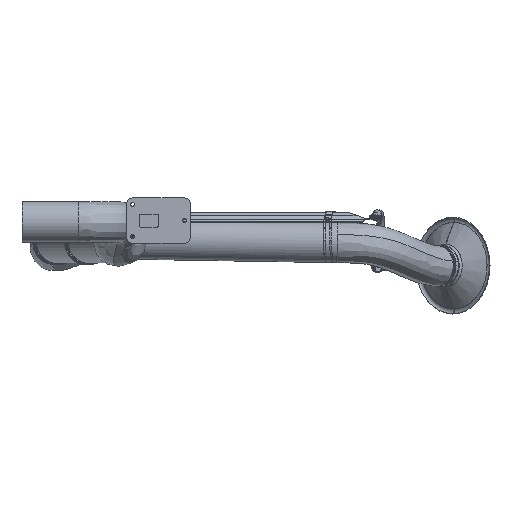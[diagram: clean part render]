
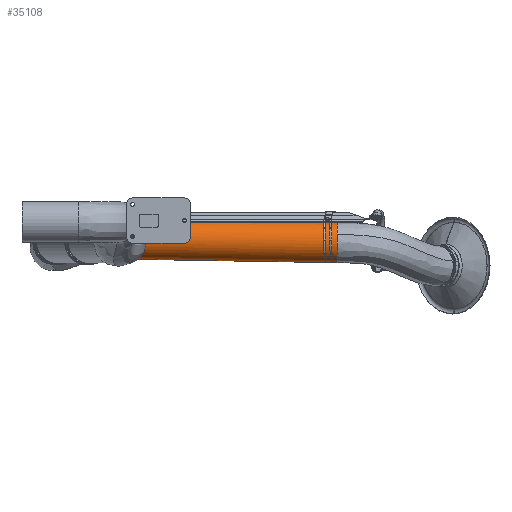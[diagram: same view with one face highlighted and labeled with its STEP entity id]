
A CAD part, left-side view. The second image highlights one B-rep face of the part: STEP entity #35108.
In plain terms, the highlighted free-form (B-spline) face has degree [3, 3] with [7, 6] control points.
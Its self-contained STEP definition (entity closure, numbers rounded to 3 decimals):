
#34164=CARTESIAN_POINT('',(1148.758,-582.743,
-126.491));
#34165=CARTESIAN_POINT('',(1148.758,-502.41,
-125.158));
#34166=CARTESIAN_POINT('',(1148.758,-341.743,
-122.491));
#34167=CARTESIAN_POINT('',(1148.758,-100.743,
-118.491));
#34168=CARTESIAN_POINT('',(1148.758,59.924,
-115.825));
#34169=CARTESIAN_POINT('',(1148.758,140.257,
-114.491));
#34174=CARTESIAN_POINT('',(1148.758,-583.78,-64.));
#34175=DIRECTION('',(0.,-1.,-0.017));
#34176=DIRECTION('',(0.,-0.017,1.));
#34177=AXIS2_PLACEMENT_3D('',#34174,#34175,#34176);
#34182=CARTESIAN_POINT('',(1148.758,-583.78,-64.));
#34183=DIRECTION('',(0.,-1.,-0.017));
#34184=DIRECTION('',(-0.916,-0.007,0.401));
#34185=AXIS2_PLACEMENT_3D('',#34182,#34183,#34184);
#34206=CARTESIAN_POINT('',(1148.758,-584.817,
-1.509));
#34207=CARTESIAN_POINT('',(1148.758,-504.484,
-0.175));
#34208=CARTESIAN_POINT('',(1148.758,-343.817,
2.491));
#34209=CARTESIAN_POINT('',(1148.758,-102.817,
6.491));
#34210=CARTESIAN_POINT('',(1148.758,57.849,9.158));
#34211=CARTESIAN_POINT('',(1148.758,138.183,10.491));
#34486=CARTESIAN_POINT('',(1148.758,139.22,-52.));
#34487=DIRECTION('',(0.,1.,0.017));
#34488=DIRECTION('',(0.,0.017,-1.));
#34489=AXIS2_PLACEMENT_3D('',#34486,#34487,#34488);
#35013=CARTESIAN_POINT('',(1148.758,140.257,
-114.491));
#35014=CARTESIAN_POINT('',(1148.758,138.183,10.491));
#35015=VERTEX_POINT('',#35013);
#35016=VERTEX_POINT('',#35014);
#35039=VERTEX_POINT('',#34164);
#35040=VERTEX_POINT('',#34206);
#35049=CARTESIAN_POINT('',(1091.505,-584.196,
-38.936));
#35050=VERTEX_POINT('',#35049);
#35053=CARTESIAN_POINT('',(1152.683,-597.205,
-126.608));
#35054=CARTESIAN_POINT('',(1152.683,-592.385,
-126.528));
#35055=CARTESIAN_POINT('',(1152.683,-346.565,
-122.448));
#35056=CARTESIAN_POINT('',(1152.683,-95.925,
-118.288));
#35057=CARTESIAN_POINT('',(1152.683,149.895,
-114.208));
#35058=CARTESIAN_POINT('',(1152.683,154.715,
-114.128));
#35059=CARTESIAN_POINT('',(1114.296,-597.165,
-129.023));
#35060=CARTESIAN_POINT('',(1114.296,-592.345,
-128.943));
#35061=CARTESIAN_POINT('',(1114.296,-346.525,
-124.863));
#35062=CARTESIAN_POINT('',(1114.296,-95.885,
-120.703));
#35063=CARTESIAN_POINT('',(1114.296,149.935,
-116.623));
#35064=CARTESIAN_POINT('',(1114.296,154.755,
-116.543));
#35065=CARTESIAN_POINT('',(1086.258,-597.602,
-102.697));
#35066=CARTESIAN_POINT('',(1086.258,-592.782,
-102.617));
#35067=CARTESIAN_POINT('',(1086.258,-346.962,
-98.537));
#35068=CARTESIAN_POINT('',(1086.258,-96.322,
-94.377));
#35069=CARTESIAN_POINT('',(1086.258,149.498,
-90.297));
#35070=CARTESIAN_POINT('',(1086.258,154.318,
-90.217));
#35071=CARTESIAN_POINT('',(1086.258,-598.24,-64.24));
#35072=CARTESIAN_POINT('',(1086.258,-593.42,-64.16));
#35073=CARTESIAN_POINT('',(1086.258,-347.6,-60.08));
#35074=CARTESIAN_POINT('',(1086.258,-96.96,-55.92));
#35075=CARTESIAN_POINT('',(1086.258,148.86,-51.84));
#35076=CARTESIAN_POINT('',(1086.258,153.68,-51.76));
#35077=CARTESIAN_POINT('',(1086.258,-598.878,
-25.783));
#35078=CARTESIAN_POINT('',(1086.258,-594.058,
-25.703));
#35079=CARTESIAN_POINT('',(1086.258,-348.238,
-21.623));
#35080=CARTESIAN_POINT('',(1086.258,-97.598,
-17.463));
#35081=CARTESIAN_POINT('',(1086.258,148.222,
-13.383));
#35082=CARTESIAN_POINT('',(1086.258,153.042,
-13.303));
#35083=CARTESIAN_POINT('',(1114.296,-599.315,
0.543));
#35084=CARTESIAN_POINT('',(1114.296,-594.495,
0.623));
#35085=CARTESIAN_POINT('',(1114.296,-348.675,
4.703));
#35086=CARTESIAN_POINT('',(1114.296,-98.035,
8.863));
#35087=CARTESIAN_POINT('',(1114.296,147.785,12.943));
#35088=CARTESIAN_POINT('',(1114.296,152.605,13.023));
#35089=CARTESIAN_POINT('',(1152.683,-599.275,
-1.872));
#35090=CARTESIAN_POINT('',(1152.683,-594.455,
-1.792));
#35091=CARTESIAN_POINT('',(1152.683,-348.635,
2.288));
#35092=CARTESIAN_POINT('',(1152.683,-97.995,
6.448));
#35093=CARTESIAN_POINT('',(1152.683,147.825,10.528));
#35094=CARTESIAN_POINT('',(1152.683,152.645,10.608));
#35095=(BOUNDED_SURFACE()B_SPLINE_SURFACE(3,3,((#35053,#35054,#35055,#35056,
#35057,#35058),(#35059,#35060,#35061,#35062,#35063,#35064),(#35065,#35066,
#35067,#35068,#35069,#35070),(#35071,#35072,#35073,#35074,#35075,#35076),
(#35077,#35078,#35079,#35080,#35081,#35082),(#35083,#35084,#35085,#35086,#35087,
#35088),(#35089,#35090,#35091,#35092,#35093,#35094)),.UNSPECIFIED.,.F.,.F.,.F.)B_SPLINE_SURFACE_WITH_KNOTS((4,3,4),(4,1,1,4),(0.,1.,2.),(-0.02,0.,1.,
1.02),.UNSPECIFIED.)GEOMETRIC_REPRESENTATION_ITEM()RATIONAL_B_SPLINE_SURFACE((
(1.187,1.187,1.187,1.187,
1.187,1.187),(0.938,0.938,
0.938,0.938,0.938,0.938),(
0.938,0.938,0.938,0.938,
0.938,0.938),(1.187,1.187,
1.187,1.187,1.187,1.187),(
0.938,0.938,0.938,0.938,
0.938,0.938),(0.938,0.938,
0.938,0.938,0.938,0.938),(
1.187,1.187,1.187,1.187,
1.187,1.187)))REPRESENTATION_ITEM('')SURFACE());
#35097=ORIENTED_EDGE('',*,*,#35096,.T.);
#35099=ORIENTED_EDGE('',*,*,#35098,.T.);
#35101=ORIENTED_EDGE('',*,*,#35100,.F.);
#35103=ORIENTED_EDGE('',*,*,#35102,.T.);
#35105=ORIENTED_EDGE('',*,*,#35104,.T.);
#35106=EDGE_LOOP('',(#35097,#35099,#35101,#35103,#35105));
#35107=FACE_OUTER_BOUND('',#35106,.F.);
#34170=B_SPLINE_CURVE_WITH_KNOTS('',3,(#34164,#34165,#34166,#34167,#34168,
#34169),.UNSPECIFIED.,.F.,.F.,(4,1,1,4),(0.,0.333,
0.667,1.),.UNSPECIFIED.);
#34178=CIRCLE('',#34177,62.5);
#34186=CIRCLE('',#34185,62.5);
#34212=B_SPLINE_CURVE_WITH_KNOTS('',3,(#34206,#34207,#34208,#34209,#34210,
#34211),.UNSPECIFIED.,.F.,.F.,(4,1,1,4),(0.,0.333,
0.667,1.),.UNSPECIFIED.);
#34490=CIRCLE('',#34489,62.5);
#35096=EDGE_CURVE('',#35039,#35015,#34170,.T.);
#35098=EDGE_CURVE('',#35015,#35016,#34490,.T.);
#35100=EDGE_CURVE('',#35040,#35016,#34212,.T.);
#35102=EDGE_CURVE('',#35040,#35050,#34178,.T.);
#35104=EDGE_CURVE('',#35050,#35039,#34186,.T.);
#35108=ADVANCED_FACE('',(#35107),#35095,.T.);
